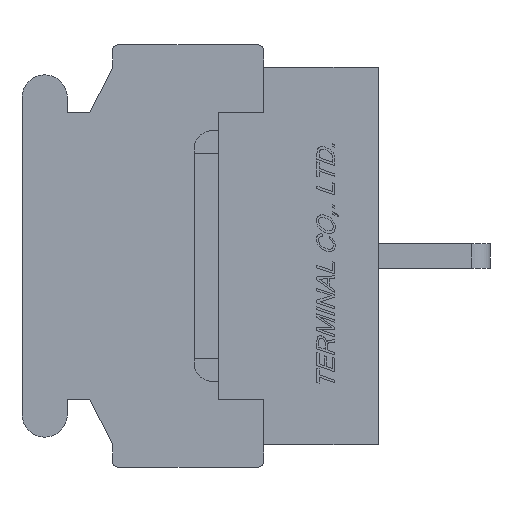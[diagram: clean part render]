
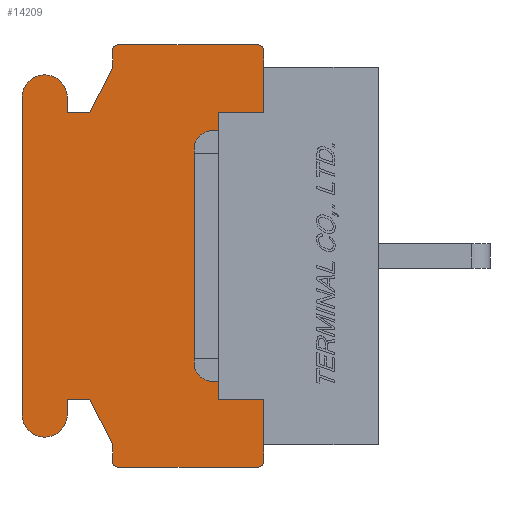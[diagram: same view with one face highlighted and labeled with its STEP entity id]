
A CAD part, left-side view. The second image highlights one B-rep face of the part: STEP entity #14209.
In plain terms, the highlighted planar face has unit normal (-1, 0, 0).
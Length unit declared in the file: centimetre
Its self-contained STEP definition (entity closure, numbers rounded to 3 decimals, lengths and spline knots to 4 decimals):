
#835=PLANE('',#23003);
#1648=VECTOR('',#15544,1.);
#2043=VECTOR('',#16072,1.);
#2046=VECTOR('',#16076,1.);
#2048=VECTOR('',#16079,1.);
#2049=VECTOR('',#16081,1.);
#2050=VECTOR('',#16083,1.);
#2051=VECTOR('',#16086,1.);
#2052=VECTOR('',#16089,1.);
#2053=VECTOR('',#16090,1.);
#2054=VECTOR('',#16091,1.);
#2055=VECTOR('',#16092,1.);
#2056=VECTOR('',#16095,1.);
#2057=VECTOR('',#16098,1.);
#2058=VECTOR('',#16099,1.);
#2059=VECTOR('',#16100,1.);
#2060=VECTOR('',#16101,1.);
#2061=VECTOR('',#16104,1.);
#2062=VECTOR('',#16107,1.);
#3222=LINE('',#19422,#1648);
#3617=LINE('',#20907,#2043);
#3620=LINE('',#20913,#2046);
#3622=LINE('',#20917,#2048);
#3623=LINE('',#20919,#2049);
#3624=LINE('',#20921,#2050);
#3625=LINE('',#20925,#2051);
#3626=LINE('',#20929,#2052);
#3627=LINE('',#20931,#2053);
#3628=LINE('',#20933,#2054);
#3629=LINE('',#20935,#2055);
#3630=LINE('',#20939,#2056);
#3631=LINE('',#20943,#2057);
#3632=LINE('',#20945,#2058);
#3633=LINE('',#20947,#2059);
#3634=LINE('',#20949,#2060);
#3635=LINE('',#20953,#2061);
#3636=LINE('',#20957,#2062);
#4735=VERTEX_POINT('',#19421);
#4736=VERTEX_POINT('',#19423);
#5070=VERTEX_POINT('',#20906);
#5071=VERTEX_POINT('',#20908);
#5072=VERTEX_POINT('',#20912);
#5073=VERTEX_POINT('',#20914);
#5074=VERTEX_POINT('',#20922);
#5075=VERTEX_POINT('',#20924);
#5076=VERTEX_POINT('',#20926);
#5077=VERTEX_POINT('',#20928);
#5078=VERTEX_POINT('',#20930);
#5079=VERTEX_POINT('',#20932);
#5080=VERTEX_POINT('',#20934);
#5081=VERTEX_POINT('',#20936);
#5082=VERTEX_POINT('',#20938);
#5083=VERTEX_POINT('',#20940);
#5084=VERTEX_POINT('',#20942);
#5085=VERTEX_POINT('',#20944);
#5086=VERTEX_POINT('',#20946);
#5087=VERTEX_POINT('',#20948);
#5088=VERTEX_POINT('',#20950);
#5089=VERTEX_POINT('',#20952);
#5090=VERTEX_POINT('',#20954);
#5091=VERTEX_POINT('',#20956);
#5638=CIRCLE('',#23004,0.02);
#5639=CIRCLE('',#23005,0.02);
#5640=CIRCLE('',#23006,0.075);
#5641=CIRCLE('',#23007,0.075);
#5642=CIRCLE('',#23008,0.02);
#5643=CIRCLE('',#23009,0.02);
#6573=EDGE_CURVE('',#4736,#4735,#3222,.T.);
#7074=EDGE_CURVE('',#5071,#5070,#3617,.T.);
#7077=EDGE_CURVE('',#5073,#5072,#3620,.T.);
#7079=EDGE_CURVE('',#5072,#4736,#3622,.T.);
#7080=EDGE_CURVE('',#4735,#5071,#3623,.T.);
#7081=EDGE_CURVE('',#5074,#5070,#3624,.T.);
#7082=EDGE_CURVE('',#5075,#5074,#5638,.T.);
#7083=EDGE_CURVE('',#5076,#5075,#3625,.T.);
#7084=EDGE_CURVE('',#5077,#5076,#5639,.T.);
#7085=EDGE_CURVE('',#5078,#5077,#3626,.T.);
#7086=EDGE_CURVE('',#5079,#5078,#3627,.T.);
#7087=EDGE_CURVE('',#5080,#5079,#3628,.T.);
#7088=EDGE_CURVE('',#5081,#5080,#3629,.T.);
#7089=EDGE_CURVE('',#5082,#5081,#5640,.T.);
#7090=EDGE_CURVE('',#5083,#5082,#3630,.T.);
#7091=EDGE_CURVE('',#5084,#5083,#5641,.T.);
#7092=EDGE_CURVE('',#5085,#5084,#3631,.T.);
#7093=EDGE_CURVE('',#5086,#5085,#3632,.T.);
#7094=EDGE_CURVE('',#5087,#5086,#3633,.T.);
#7095=EDGE_CURVE('',#5088,#5087,#3634,.T.);
#7096=EDGE_CURVE('',#5089,#5088,#5642,.T.);
#7097=EDGE_CURVE('',#5090,#5089,#3635,.T.);
#7098=EDGE_CURVE('',#5091,#5090,#5643,.T.);
#7099=EDGE_CURVE('',#5073,#5091,#3636,.T.);
#10434=ORIENTED_EDGE('',*,*,#7077,.T.);
#10435=ORIENTED_EDGE('',*,*,#7079,.T.);
#10436=ORIENTED_EDGE('',*,*,#6573,.T.);
#10437=ORIENTED_EDGE('',*,*,#7080,.T.);
#10438=ORIENTED_EDGE('',*,*,#7074,.T.);
#10439=ORIENTED_EDGE('',*,*,#7081,.F.);
#10440=ORIENTED_EDGE('',*,*,#7082,.F.);
#10441=ORIENTED_EDGE('',*,*,#7083,.F.);
#10442=ORIENTED_EDGE('',*,*,#7084,.F.);
#10443=ORIENTED_EDGE('',*,*,#7085,.F.);
#10444=ORIENTED_EDGE('',*,*,#7086,.F.);
#10445=ORIENTED_EDGE('',*,*,#7087,.F.);
#10446=ORIENTED_EDGE('',*,*,#7088,.F.);
#10447=ORIENTED_EDGE('',*,*,#7089,.F.);
#10448=ORIENTED_EDGE('',*,*,#7090,.F.);
#10449=ORIENTED_EDGE('',*,*,#7091,.F.);
#10450=ORIENTED_EDGE('',*,*,#7092,.F.);
#10451=ORIENTED_EDGE('',*,*,#7093,.F.);
#10452=ORIENTED_EDGE('',*,*,#7094,.F.);
#10453=ORIENTED_EDGE('',*,*,#7095,.F.);
#10454=ORIENTED_EDGE('',*,*,#7096,.F.);
#10455=ORIENTED_EDGE('',*,*,#7097,.F.);
#10456=ORIENTED_EDGE('',*,*,#7098,.F.);
#10457=ORIENTED_EDGE('',*,*,#7099,.F.);
#12561=EDGE_LOOP('',(#10434,#10435,#10436,#10437,#10438,#10439,#10440,#10441,
#10442,#10443,#10444,#10445,#10446,#10447,#10448,#10449,#10450,#10451,#10452,
#10453,#10454,#10455,#10456,#10457));
#13411=FACE_BOUND('',#12561,.T.);
#14209=ADVANCED_FACE('',(#13411),#835,.F.);
#15544=DIRECTION('',(0.,0.,1.));
#16072=DIRECTION('',(0.,0.,1.));
#16076=DIRECTION('',(0.,0.,1.));
#16079=DIRECTION('',(0.,1.,0.));
#16081=DIRECTION('',(0.,-1.,0.));
#16082=DIRECTION('',(1.,0.,0.));
#16083=DIRECTION('',(0.,0.,-1.));
#16084=DIRECTION('',(1.,0.,0.));
#16085=DIRECTION('',(0.,0.,-0.02));
#16086=DIRECTION('',(0.,-1.,0.));
#16087=DIRECTION('',(1.,0.,0.));
#16088=DIRECTION('',(0.,0.,-0.02));
#16089=DIRECTION('',(0.,0.,1.));
#16090=DIRECTION('',(0.,-0.447,0.894));
#16091=DIRECTION('',(0.,-1.,0.));
#16092=DIRECTION('',(0.,0.,-1.));
#16093=DIRECTION('',(1.,0.,0.));
#16094=DIRECTION('',(0.,0.,-0.075));
#16095=DIRECTION('',(0.,0.,1.));
#16096=DIRECTION('',(1.,0.,0.));
#16097=DIRECTION('',(0.,0.,-0.075));
#16098=DIRECTION('',(0.,0.,-1.));
#16099=DIRECTION('',(0.,1.,0.));
#16100=DIRECTION('',(0.,0.447,0.894));
#16101=DIRECTION('',(0.,0.,1.));
#16102=DIRECTION('',(1.,0.,0.));
#16103=DIRECTION('',(0.,0.,-0.02));
#16104=DIRECTION('',(0.,1.,0.));
#16105=DIRECTION('',(1.,0.,0.));
#16106=DIRECTION('',(0.,0.,-0.02));
#16107=DIRECTION('',(0.,0.,-1.));
#19421=CARTESIAN_POINT('',(-0.762,0.53,0.475));
#19422=CARTESIAN_POINT('',(-0.762,0.53,0.));
#19423=CARTESIAN_POINT('',(-0.762,0.53,-0.475));
#20906=CARTESIAN_POINT('',(-0.762,0.38,0.625));
#20907=CARTESIAN_POINT('',(-0.762,0.38,0.275));
#20908=CARTESIAN_POINT('',(-0.762,0.38,0.475));
#20912=CARTESIAN_POINT('',(-0.762,0.38,-0.475));
#20913=CARTESIAN_POINT('',(-0.762,0.38,-0.275));
#20914=CARTESIAN_POINT('',(-0.762,0.38,-0.625));
#20917=CARTESIAN_POINT('',(-0.762,0.5304,-0.475));
#20919=CARTESIAN_POINT('',(-0.762,0.5304,0.475));
#20920=CARTESIAN_POINT('',(-0.762,0.6059,0.));
#20921=CARTESIAN_POINT('',(-0.762,0.38,0.68));
#20922=CARTESIAN_POINT('',(-0.762,0.38,0.68));
#20923=CARTESIAN_POINT('',(-0.762,0.4,0.68));
#20924=CARTESIAN_POINT('',(-0.762,0.4,0.7));
#20925=CARTESIAN_POINT('',(-0.762,0.86,0.7));
#20926=CARTESIAN_POINT('',(-0.762,0.86,0.7));
#20927=CARTESIAN_POINT('',(-0.762,0.86,0.68));
#20928=CARTESIAN_POINT('',(-0.762,0.88,0.68));
#20929=CARTESIAN_POINT('',(-0.762,0.88,0.625));
#20930=CARTESIAN_POINT('',(-0.762,0.88,0.625));
#20931=CARTESIAN_POINT('',(-0.762,0.955,0.475));
#20932=CARTESIAN_POINT('',(-0.762,0.955,0.475));
#20933=CARTESIAN_POINT('',(-0.762,1.03,0.475));
#20934=CARTESIAN_POINT('',(-0.762,1.03,0.475));
#20935=CARTESIAN_POINT('',(-0.762,1.03,0.525));
#20936=CARTESIAN_POINT('',(-0.762,1.03,0.525));
#20937=CARTESIAN_POINT('',(-0.762,1.105,0.525));
#20938=CARTESIAN_POINT('',(-0.762,1.18,0.525));
#20939=CARTESIAN_POINT('',(-0.762,1.18,-0.525));
#20940=CARTESIAN_POINT('',(-0.762,1.18,-0.525));
#20941=CARTESIAN_POINT('',(-0.762,1.105,-0.525));
#20942=CARTESIAN_POINT('',(-0.762,1.03,-0.525));
#20943=CARTESIAN_POINT('',(-0.762,1.03,-0.475));
#20944=CARTESIAN_POINT('',(-0.762,1.03,-0.475));
#20945=CARTESIAN_POINT('',(-0.762,0.955,-0.475));
#20946=CARTESIAN_POINT('',(-0.762,0.955,-0.475));
#20947=CARTESIAN_POINT('',(-0.762,0.88,-0.625));
#20948=CARTESIAN_POINT('',(-0.762,0.88,-0.625));
#20949=CARTESIAN_POINT('',(-0.762,0.88,-0.68));
#20950=CARTESIAN_POINT('',(-0.762,0.88,-0.68));
#20951=CARTESIAN_POINT('',(-0.762,0.86,-0.68));
#20952=CARTESIAN_POINT('',(-0.762,0.86,-0.7));
#20953=CARTESIAN_POINT('',(-0.762,0.4,-0.7));
#20954=CARTESIAN_POINT('',(-0.762,0.4,-0.7));
#20955=CARTESIAN_POINT('',(-0.762,0.4,-0.68));
#20956=CARTESIAN_POINT('',(-0.762,0.38,-0.68));
#20957=CARTESIAN_POINT('',(-0.762,0.38,-0.625));
#23003=AXIS2_PLACEMENT_3D('',#20920,#16082,$);
#23004=AXIS2_PLACEMENT_3D('',#20923,#16084,#16085);
#23005=AXIS2_PLACEMENT_3D('',#20927,#16087,#16088);
#23006=AXIS2_PLACEMENT_3D('',#20937,#16093,#16094);
#23007=AXIS2_PLACEMENT_3D('',#20941,#16096,#16097);
#23008=AXIS2_PLACEMENT_3D('',#20951,#16102,#16103);
#23009=AXIS2_PLACEMENT_3D('',#20955,#16105,#16106);
